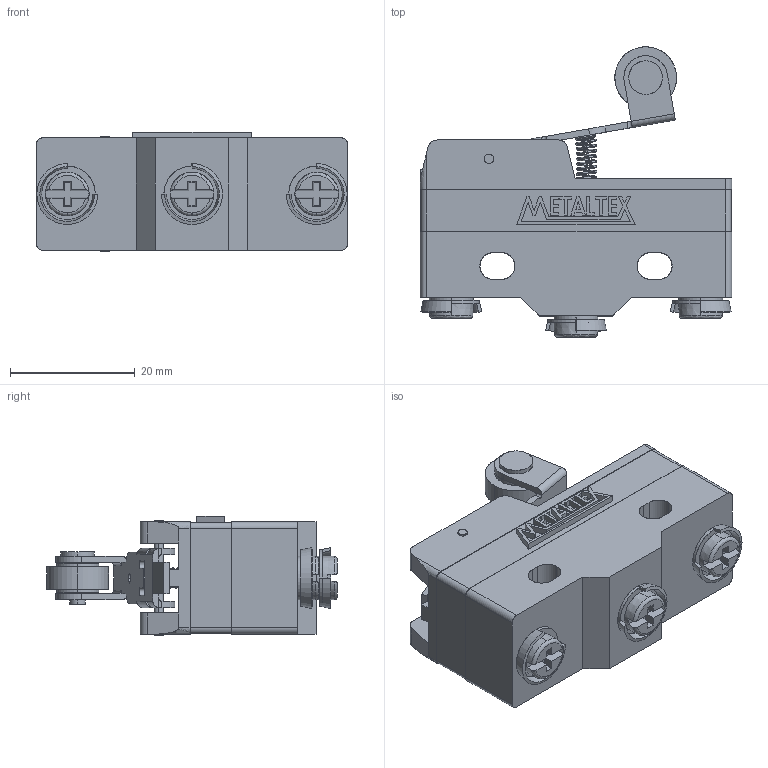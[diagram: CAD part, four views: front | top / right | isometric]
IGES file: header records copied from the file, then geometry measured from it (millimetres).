
Start section: SolidWorks IGES file using analytic representation for surfaces
Global section: file name: D:\X - Arquivos\PROEX\Empresas\P11 - METALTEX\01 - Produtos\IGES\4ª remessa\5ª etapa\FM1704.IGS; native system: SolidWorks 2012; preprocessor: SolidWorks 2012; author: Usuario; date: 180601.135029; units: millimetre
Bounding box: 49.9 x 46.56 x 19.15 mm (x, y, z)
Surface area: 8610.9 mm2 (no closed solid volume)
Topology: 0 solids, 0 shells, 375 faces, 4043 edges, 4043 vertices
Faces by surface type: bspline 260, revolution 115
